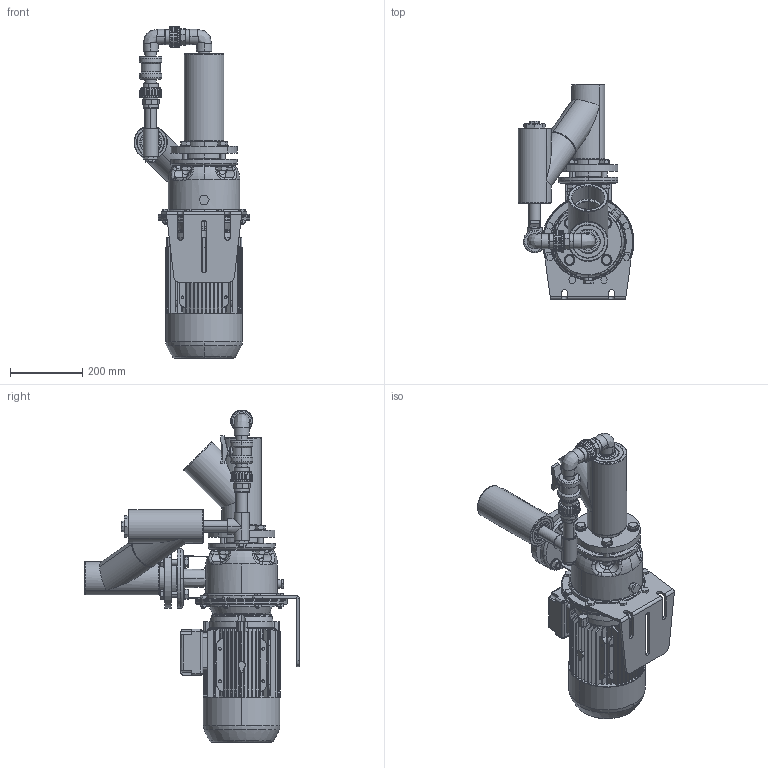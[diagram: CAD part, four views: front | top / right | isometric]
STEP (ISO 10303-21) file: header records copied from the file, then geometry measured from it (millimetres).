
FILE_DESCRIPTION (( 'STEP AP203' ), '1' );
FILE_NAME ('Lowara SHE 50-160 z.a.z handbed. by-pass.STEP', '2011-04-07T08:02:15', ( '' ), ( '' ), 'SwSTEP 2.0', 'SolidWorks 2010', '' );
FILE_SCHEMA (( 'CONFIG_CONTROL_DESIGN' ));
Length unit declared in the file: millimetre
Products named in the file (1): Lowara SHE 50-160 z.a.z handbed. by-pass
Bounding box: 320.9 x 595 x 919.45 mm (x, y, z)
Volume: 22573784.2 mm3; surface area: 2407182.8 mm2
Topology: 65 solids, 67 shells, 2798 faces, 7052 edges, 4402 vertices
Faces by surface type: plane 1048, cylinder 878, cone 466, bspline 380, torus 26
Entity records: 118218 total; most frequent: CARTESIAN_POINT 55105, ORIENTED_EDGE 13906, DIRECTION 12188, EDGE_CURVE 6953, AXIS2_PLACEMENT_3D 4808, VERTEX_POINT 4402, EDGE_LOOP 3081, ADVANCED_FACE 2798
